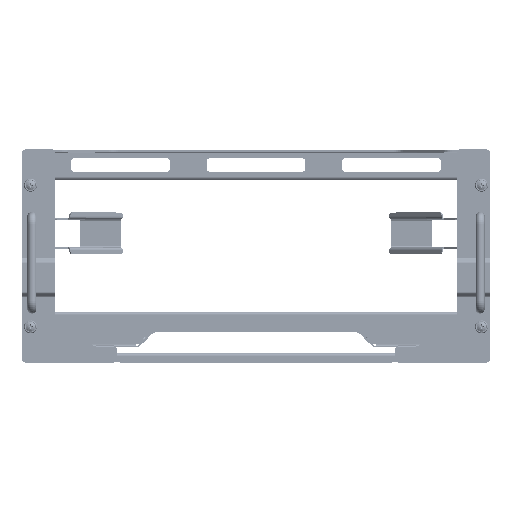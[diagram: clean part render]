
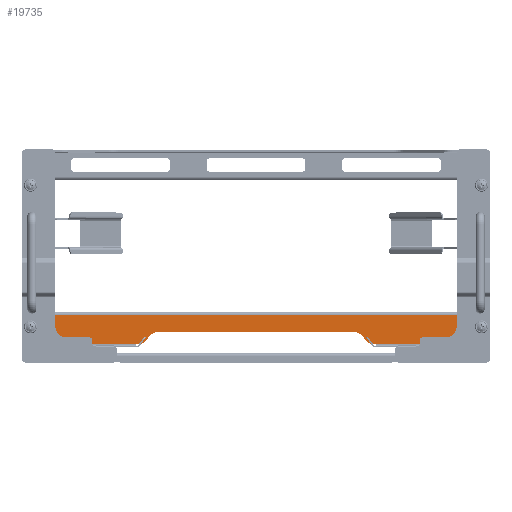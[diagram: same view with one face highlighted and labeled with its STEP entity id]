
A CAD part, top view. The second image highlights one B-rep face of the part: STEP entity #19735.
In plain terms, the highlighted planar face has unit normal (0, 0, 1).
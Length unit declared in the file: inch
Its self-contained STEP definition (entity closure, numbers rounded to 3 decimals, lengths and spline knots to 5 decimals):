
#17540=DIRECTION('',(1.,0.,0.));
#17541=VECTOR('',#17540,3.381);
#17542=CARTESIAN_POINT('',(4.87,-1.08,0.));
#17543=LINE('',#17542,#17541);
#17549=DIRECTION('',(1.,0.,0.));
#17550=VECTOR('',#17549,3.381);
#17551=CARTESIAN_POINT('',(-8.251,-1.08,0.));
#17552=LINE('',#17551,#17550);
#17791=DIRECTION('',(0.,1.,0.));
#17792=VECTOR('',#17791,1.191);
#17793=CARTESIAN_POINT('',(-8.251,-1.08,0.));
#17794=LINE('',#17793,#17792);
#18023=DIRECTION('',(0.,-1.,0.));
#18024=VECTOR('',#18023,1.191);
#18025=CARTESIAN_POINT('',(8.251,0.111,0.));
#18026=LINE('',#18025,#18024);
#18175=DIRECTION('',(1.,0.,0.));
#18176=VECTOR('',#18175,0.05003);
#18177=CARTESIAN_POINT('',(-4.87,-1.08,0.));
#18178=LINE('',#18177,#18176);
#18179=DIRECTION('',(1.,0.,0.));
#18180=VECTOR('',#18179,16.502);
#18181=CARTESIAN_POINT('',(-8.251,0.111,0.));
#18182=LINE('',#18181,#18180);
#18183=DIRECTION('',(1.,0.,0.));
#18184=VECTOR('',#18183,0.05003);
#18185=CARTESIAN_POINT('',(4.81997,-1.08,0.));
#18186=LINE('',#18185,#18184);
#18187=CARTESIAN_POINT('',(4.82,-0.58,0.));
#18188=DIRECTION('',(0.,0.,1.));
#18189=DIRECTION('',(-0.866,-0.5,0.));
#18190=AXIS2_PLACEMENT_3D('',#18187,#18188,#18189);
#18192=CARTESIAN_POINT('',(3.95397,-1.08,0.));
#18193=DIRECTION('',(0.,0.,1.));
#18194=DIRECTION('',(0.866,0.5,0.));
#18195=AXIS2_PLACEMENT_3D('',#18192,#18193,#18194);
#18197=DIRECTION('',(1.,0.,0.));
#18198=VECTOR('',#18197,7.90795);
#18199=CARTESIAN_POINT('',(-3.95397,-0.58,0.));
#18200=LINE('',#18199,#18198);
#18201=CARTESIAN_POINT('',(-3.95397,-1.08,0.));
#18202=DIRECTION('',(0.,0.,1.));
#18203=DIRECTION('',(0.,1.,0.));
#18204=AXIS2_PLACEMENT_3D('',#18201,#18202,#18203);
#18206=CARTESIAN_POINT('',(-4.82,-0.58,0.));
#18207=DIRECTION('',(0.,0.,1.));
#18208=DIRECTION('',(0.,-1.,0.));
#18209=AXIS2_PLACEMENT_3D('',#18206,#18207,#18208);
#18374=CARTESIAN_POINT('',(-8.251,0.111,0.));
#18376=VERTEX_POINT('',#18374);
#18377=CARTESIAN_POINT('',(-8.251,-1.08,0.));
#18379=VERTEX_POINT('',#18377);
#18382=CARTESIAN_POINT('',(8.251,0.111,0.));
#18384=VERTEX_POINT('',#18382);
#18385=CARTESIAN_POINT('',(8.251,-1.08,0.));
#18387=VERTEX_POINT('',#18385);
#18405=CARTESIAN_POINT('',(-4.87,-1.08,0.));
#18406=CARTESIAN_POINT('',(-4.81997,-1.08,0.));
#18407=VERTEX_POINT('',#18405);
#18408=VERTEX_POINT('',#18406);
#18409=CARTESIAN_POINT('',(-4.38699,-0.83,0.));
#18410=VERTEX_POINT('',#18409);
#18411=CARTESIAN_POINT('',(-3.95397,-0.58,0.));
#18412=VERTEX_POINT('',#18411);
#18413=CARTESIAN_POINT('',(3.95397,-0.58,0.));
#18414=VERTEX_POINT('',#18413);
#18415=CARTESIAN_POINT('',(4.38699,-0.83,0.));
#18416=VERTEX_POINT('',#18415);
#18417=CARTESIAN_POINT('',(4.81995,-1.08,0.));
#18418=VERTEX_POINT('',#18417);
#18419=CARTESIAN_POINT('',(4.87,-1.08,0.));
#18420=VERTEX_POINT('',#18419);
#19709=CARTESIAN_POINT('',(-8.251,0.111,0.));
#19710=DIRECTION('',(0.,0.,1.));
#19711=DIRECTION('',(0.,-1.,0.));
#19712=AXIS2_PLACEMENT_3D('',#19709,#19710,#19711);
#19713=PLANE('',#19712);
#19715=ORIENTED_EDGE('',*,*,#19714,.F.);
#19716=ORIENTED_EDGE('',*,*,#18776,.F.);
#19717=ORIENTED_EDGE('',*,*,#19154,.T.);
#19718=ORIENTED_EDGE('',*,*,#19338,.T.);
#19719=ORIENTED_EDGE('',*,*,#19498,.T.);
#19720=ORIENTED_EDGE('',*,*,#18759,.F.);
#19722=ORIENTED_EDGE('',*,*,#19721,.F.);
#19724=ORIENTED_EDGE('',*,*,#19723,.F.);
#19726=ORIENTED_EDGE('',*,*,#19725,.T.);
#19728=ORIENTED_EDGE('',*,*,#19727,.F.);
#19730=ORIENTED_EDGE('',*,*,#19729,.T.);
#19732=ORIENTED_EDGE('',*,*,#19731,.F.);
#19733=EDGE_LOOP('',(#19715,#19716,#19717,#19718,#19719,#19720,#19722,#19724,
#19726,#19728,#19730,#19732));
#19734=FACE_OUTER_BOUND('',#19733,.F.);
#19735=ADVANCED_FACE('',(#19734),#19713,.T.);
#18191=CIRCLE('',#18190,0.5);
#18196=CIRCLE('',#18195,0.5);
#18205=CIRCLE('',#18204,0.5);
#18210=CIRCLE('',#18209,0.5);
#18759=EDGE_CURVE('',#18420,#18387,#17543,.T.);
#18776=EDGE_CURVE('',#18379,#18407,#17552,.T.);
#19154=EDGE_CURVE('',#18379,#18376,#17794,.T.);
#19338=EDGE_CURVE('',#18376,#18384,#18182,.T.);
#19498=EDGE_CURVE('',#18384,#18387,#18026,.T.);
#19714=EDGE_CURVE('',#18407,#18408,#18178,.T.);
#19721=EDGE_CURVE('',#18418,#18420,#18186,.T.);
#19723=EDGE_CURVE('',#18416,#18418,#18191,.T.);
#19725=EDGE_CURVE('',#18416,#18414,#18196,.T.);
#19727=EDGE_CURVE('',#18412,#18414,#18200,.T.);
#19729=EDGE_CURVE('',#18412,#18410,#18205,.T.);
#19731=EDGE_CURVE('',#18408,#18410,#18210,.T.);
